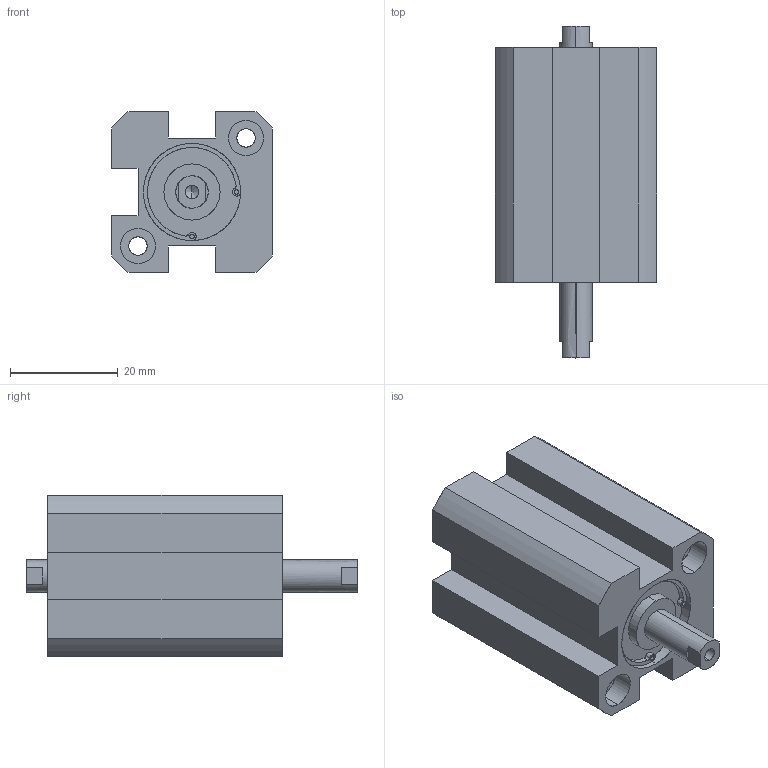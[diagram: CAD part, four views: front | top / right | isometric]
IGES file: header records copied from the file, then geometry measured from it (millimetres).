
Start section: SolidWorks IGES file using analytic representation for surfaces
Global section: file name: C:\Users\Toshiba\Desktop\XG#7-16-10.IGS; native system: SolidWorks 2014; preprocessor: SolidWorks 2014; author: Toshiba; date: 160524.095627; units: millimetre
Bounding box: 30 x 61.5 x 30 mm (x, y, z)
Surface area: 9874.9 mm2 (no closed solid volume)
Topology: 0 solids, 0 shells, 108 faces, 1704 edges, 1696 vertices
Faces by surface type: revolution 66, bspline 42
